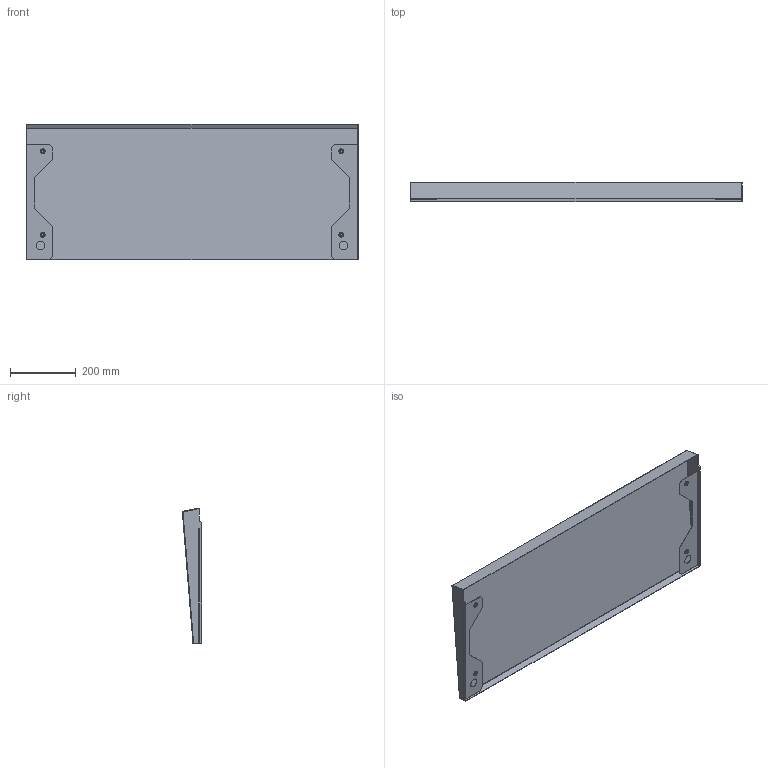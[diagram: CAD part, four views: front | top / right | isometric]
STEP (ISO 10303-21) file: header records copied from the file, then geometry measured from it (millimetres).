
FILE_DESCRIPTION (( 'STEP AP203' ), '1' );
FILE_NAME ('R 100.40 Cﾁ ﾊ鰀靍裲 鈞隆.STEP', '2012-11-21T04:27:16', ( 'system' ), ( '' ), 'SwSTEP 2.0', 'SolidWorks 2012', '' );
FILE_SCHEMA (( 'CONFIG_CONTROL_DESIGN' ));
Length unit declared in the file: millimetre
Products named in the file (1): R 100.40 Cﾁ ﾊ鰀靍裲 鈞隆
Bounding box: 1010 x 58.63 x 413.35 mm (x, y, z)
Volume: 778342.2 mm3; surface area: 1117059.5 mm2
Topology: 5 solids, 5 shells, 152 faces, 354 edges, 224 vertices
Faces by surface type: cylinder 62, plane 58, torus 16, cone 8, sphere 8
Entity records: 4419 total; most frequent: DIRECTION 824, CARTESIAN_POINT 731, ORIENTED_EDGE 692, EDGE_CURVE 346, AXIS2_PLACEMENT_3D 329, VERTEX_POINT 220, EDGE_LOOP 188, CIRCLE 176
